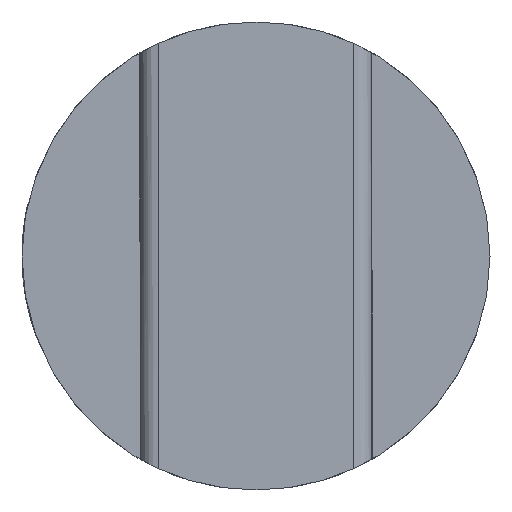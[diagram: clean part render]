
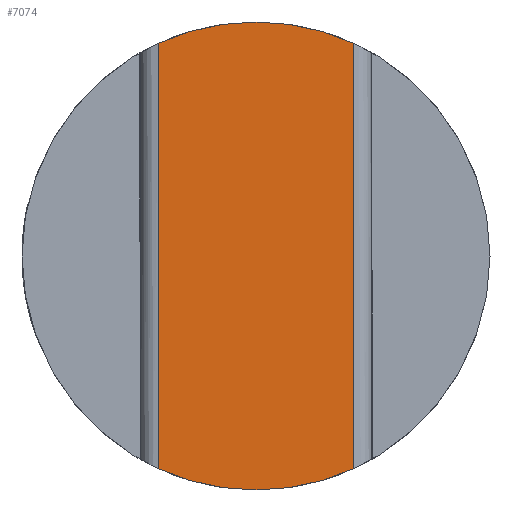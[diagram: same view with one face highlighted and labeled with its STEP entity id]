
A CAD part, left-side view. The second image highlights one B-rep face of the part: STEP entity #7074.
In plain terms, the highlighted planar face has unit normal (-1, 0, 0).
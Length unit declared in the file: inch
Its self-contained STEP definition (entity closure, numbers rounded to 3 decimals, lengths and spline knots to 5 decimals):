
#161 = EDGE_CURVE ( 'NONE', #4369, #768, #1194, .T. ) ;
#229 = DIRECTION ( 'NONE',  ( 0., 0., -1. ) ) ;
#502 = DIRECTION ( 'NONE',  ( 1., 0., 0. ) ) ;
#543 = DIRECTION ( 'NONE',  ( 0., 0., 1. ) ) ;
#581 = CARTESIAN_POINT ( 'NONE',  ( 0., 0., 0. ) ) ;
#768 = VERTEX_POINT ( 'NONE', #6962 ) ;
#810 = AXIS2_PLACEMENT_3D ( 'NONE', #581, #502, #1640 ) ;
#1033 = DIRECTION ( 'NONE',  ( 1., 0., 0. ) ) ;
#1118 = CIRCLE ( 'NONE', #5662, 0.1875 ) ;
#1158 = DIRECTION ( 'NONE',  ( 0., 0., -1. ) ) ;
#1194 = LINE ( 'NONE', #4053, #2121 ) ;
#1209 = EDGE_CURVE ( 'NONE', #768, #5624, #6675, .T. ) ;
#1362 = VERTEX_POINT ( 'NONE', #7170 ) ;
#1439 = CARTESIAN_POINT ( 'NONE',  ( 0., -0.07819, 0.17042 ) ) ;
#1621 = EDGE_LOOP ( 'NONE', ( #5784, #4594, #7322, #7148, #5949, #5679 ) ) ;
#1640 = DIRECTION ( 'NONE',  ( 0., 0., 1. ) ) ;
#1641 = CARTESIAN_POINT ( 'NONE',  ( 0., 0.07819, 0. ) ) ;
#1872 = DIRECTION ( 'NONE',  ( 0., 0., 1. ) ) ;
#1937 = DIRECTION ( 'NONE',  ( 1., 0., 0. ) ) ;
#2121 = VECTOR ( 'NONE', #1158, 39.37008 ) ;
#2306 = CARTESIAN_POINT ( 'NONE',  ( 0., 0.07819, 0.17042 ) ) ;
#2326 = CIRCLE ( 'NONE', #3893, 0.1875 ) ;
#2768 = LINE ( 'NONE', #1641, #4716 ) ;
#3004 = CARTESIAN_POINT ( 'NONE',  ( 0., 0., 0. ) ) ;
#3077 = PLANE ( 'NONE',  #4014 ) ;
#3317 = DIRECTION ( 'NONE',  ( 0., 0., 1. ) ) ;
#3715 = EDGE_CURVE ( 'NONE', #6919, #6024, #1118, .T. ) ;
#3720 = CARTESIAN_POINT ( 'NONE',  ( 0., 0., 0. ) ) ;
#3734 = DIRECTION ( 'NONE',  ( 1., 0., 0. ) ) ;
#3755 = CARTESIAN_POINT ( 'NONE',  ( 0., 0., 0. ) ) ;
#3836 = EDGE_CURVE ( 'NONE', #1362, #6919, #2768, .T. ) ;
#3893 = AXIS2_PLACEMENT_3D ( 'NONE', #3755, #1937, #6032 ) ;
#4014 = AXIS2_PLACEMENT_3D ( 'NONE', #3720, #4323, #229 ) ;
#4053 = CARTESIAN_POINT ( 'NONE',  ( 0., -0.07819, 0. ) ) ;
#4323 = DIRECTION ( 'NONE',  ( 1., 0., 0. ) ) ;
#4369 = VERTEX_POINT ( 'NONE', #1439 ) ;
#4594 = ORIENTED_EDGE ( 'NONE', *, *, #3836, .F. ) ;
#4614 = AXIS2_PLACEMENT_3D ( 'NONE', #6738, #1033, #3317 ) ;
#4716 = VECTOR ( 'NONE', #543, 39.37008 ) ;
#4793 = CARTESIAN_POINT ( 'NONE',  ( 0., 0., 0.1875 ) ) ;
#5240 = EDGE_CURVE ( 'NONE', #5624, #1362, #5321, .T. ) ;
#5321 = CIRCLE ( 'NONE', #4614, 0.1875 ) ;
#5624 = VERTEX_POINT ( 'NONE', #7395 ) ;
#5662 = AXIS2_PLACEMENT_3D ( 'NONE', #3004, #3734, #1872 ) ;
#5679 = ORIENTED_EDGE ( 'NONE', *, *, #7119, .F. ) ;
#5784 = ORIENTED_EDGE ( 'NONE', *, *, #3715, .F. ) ;
#5949 = ORIENTED_EDGE ( 'NONE', *, *, #161, .F. ) ;
#6024 = VERTEX_POINT ( 'NONE', #4793 ) ;
#6032 = DIRECTION ( 'NONE',  ( 0., 0., 1. ) ) ;
#6675 = CIRCLE ( 'NONE', #810, 0.1875 ) ;
#6738 = CARTESIAN_POINT ( 'NONE',  ( 0., 0., 0. ) ) ;
#6919 = VERTEX_POINT ( 'NONE', #2306 ) ;
#6962 = CARTESIAN_POINT ( 'NONE',  ( 0., -0.07819, -0.17042 ) ) ;
#7074 = ADVANCED_FACE ( 'NONE', ( #7126 ), #3077, .F. ) ;
#7119 = EDGE_CURVE ( 'NONE', #6024, #4369, #2326, .T. ) ;
#7126 = FACE_OUTER_BOUND ( 'NONE', #1621, .T. ) ;
#7148 = ORIENTED_EDGE ( 'NONE', *, *, #1209, .F. ) ;
#7170 = CARTESIAN_POINT ( 'NONE',  ( 0., 0.07819, -0.17042 ) ) ;
#7322 = ORIENTED_EDGE ( 'NONE', *, *, #5240, .F. ) ;
#7395 = CARTESIAN_POINT ( 'NONE',  ( 0., 0., -0.1875 ) ) ;
